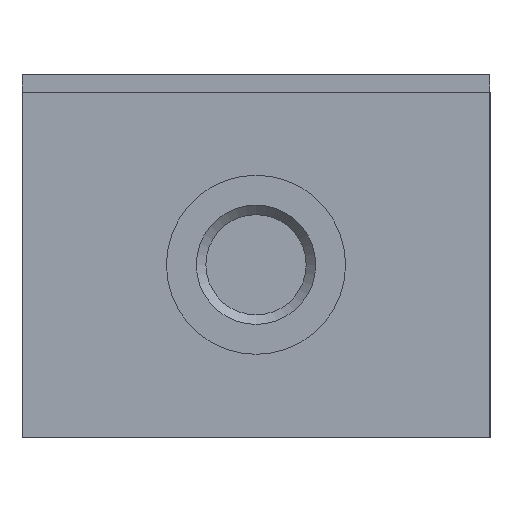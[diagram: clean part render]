
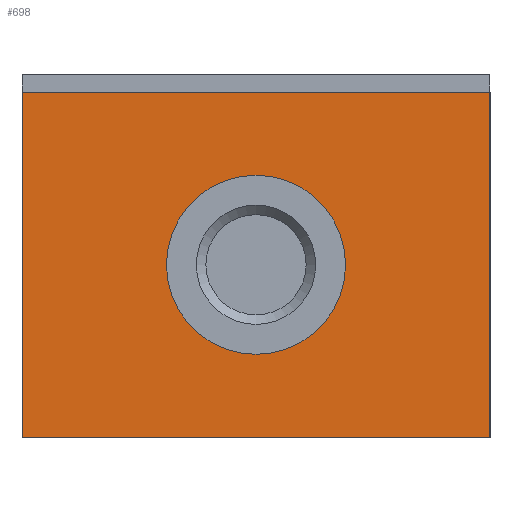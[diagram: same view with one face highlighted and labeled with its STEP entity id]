
A CAD part, left-side view. The second image highlights one B-rep face of the part: STEP entity #698.
In plain terms, the highlighted planar face has unit normal (-1, 0, 0).
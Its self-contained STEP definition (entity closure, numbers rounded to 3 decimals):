
#397=CARTESIAN_POINT('',(-55.0,0.,-8.595));
#398=VERTEX_POINT('',#397);
#399=CARTESIAN_POINT('',(-55.0,0.,-16.25));
#400=DIRECTION('',(1.0,0.0,0.0));
#401=DIRECTION('',(0.0,0.0,-1.0));
#402=AXIS2_PLACEMENT_3D('',#399,#400,#401);
#403=CIRCLE('',#402,7.655);
#404=EDGE_CURVE('',#398,#398,#403,.T.);
#565=CARTESIAN_POINT('',(-55.0,20.,-1.5));
#566=VERTEX_POINT('',#565);
#567=CARTESIAN_POINT('',(-55.0,-20.,-1.5));
#568=VERTEX_POINT('',#567);
#569=CARTESIAN_POINT('',(-55.0,20.,-1.5));
#570=DIRECTION('',(0.0,-1.0,0.0));
#571=VECTOR('',#570,40.);
#572=LINE('',#569,#571);
#573=EDGE_CURVE('',#566,#568,#572,.T.);
#605=CARTESIAN_POINT('',(-55.0,-20.,-31.));
#606=VERTEX_POINT('',#605);
#607=CARTESIAN_POINT('',(-55.0,-20.,-1.5));
#608=DIRECTION('',(0.0,0.0,-1.0));
#609=VECTOR('',#608,29.5);
#610=LINE('',#607,#609);
#611=EDGE_CURVE('',#568,#606,#610,.T.);
#636=CARTESIAN_POINT('',(-55.0,20.,-31.));
#637=VERTEX_POINT('',#636);
#638=CARTESIAN_POINT('',(-55.0,-20.,-31.));
#639=DIRECTION('',(0.0,1.0,0.0));
#640=VECTOR('',#639,40.);
#641=LINE('',#638,#640);
#642=EDGE_CURVE('',#606,#637,#641,.T.);
#667=CARTESIAN_POINT('',(-55.0,20.,-31.));
#668=DIRECTION('',(0.0,0.0,1.0));
#669=VECTOR('',#668,29.5);
#670=LINE('',#667,#669);
#671=EDGE_CURVE('',#637,#566,#670,.T.);
#684=CARTESIAN_POINT('',(-55.0,0.,-16.25));
#685=DIRECTION('',(1.0,0.0,0.0));
#686=DIRECTION('',(0.0,0.0,-1.0));
#687=AXIS2_PLACEMENT_3D('',#684,#685,#686);
#688=PLANE('',#687);
#689=ORIENTED_EDGE('',*,*,#573,.F.);
#690=ORIENTED_EDGE('',*,*,#671,.F.);
#691=ORIENTED_EDGE('',*,*,#642,.F.);
#692=ORIENTED_EDGE('',*,*,#611,.F.);
#693=EDGE_LOOP('',(#689,#690,#691,#692));
#694=FACE_OUTER_BOUND('',#693,.T.);
#695=ORIENTED_EDGE('',*,*,#404,.T.);
#696=EDGE_LOOP('',(#695));
#697=FACE_BOUND('',#696,.T.);
#698=ADVANCED_FACE('',(#694,#697),#688,.F.);
